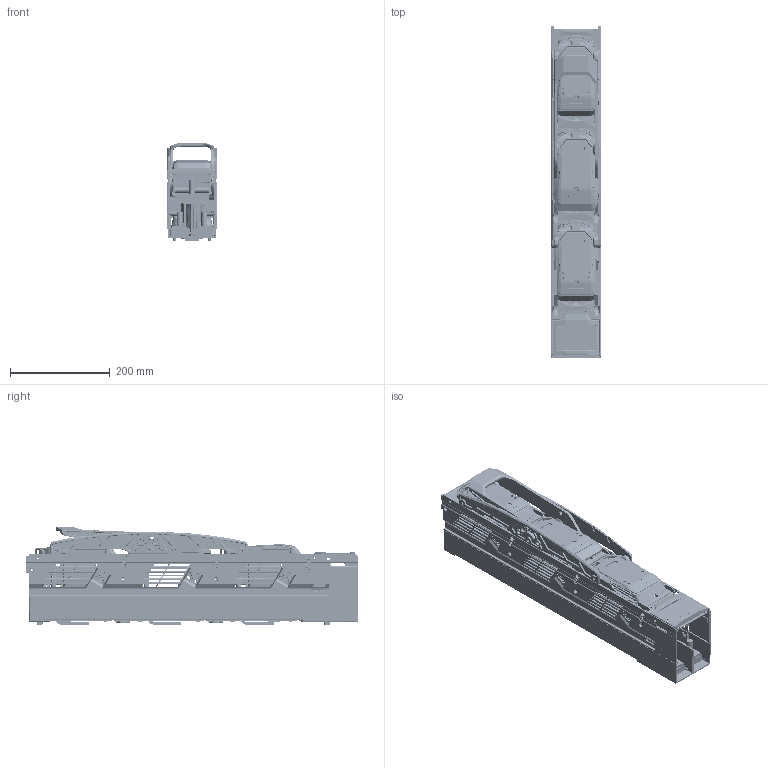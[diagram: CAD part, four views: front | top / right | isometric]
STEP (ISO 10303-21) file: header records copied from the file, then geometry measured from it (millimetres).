
FILE_DESCRIPTION((''),'2;1');
FILE_NAME('2TZD_505_6001_ASM','2024-06-17T14:30:49',('liuhui'),(''),'CREO PARAMETRIC BY PTC INC, 2020354','CREO PARAMETRIC BY PTC INC, 2020354','');
FILE_SCHEMA(('CONFIG_CONTROL_DESIGN'));
Products named in the file (34): 8TZD_022_6283; 8TZD_557_6170; 8TZD_580_6127; 8TZD_557_6171; 8TZD_289_6027; 8TZD_580_6126; 5TZD_558_6658_ASM; 8TZD_580_6128; 8TZD_580_6129; 8TZD_580_6130; 5TZD_558_6659_ASM; 8TZD_271_6029; GB_T9074_4-M5X22; GB_T5783-M12X35; 8TZD_300_6292_2; 8TZD_005_6332_2; 8TZD_005_6333_2; 8TZD_744_6026; 8TZD_742_6503; 5TZD_740_6070_ASM; 8TZD_100_6066; 8TZD_315_6744; 8TZD_271_6025; 8TZD_271_6024; 8TZD_594_6004; 5TZD_558_6656_AF0_ASM; 8TZD_253_6293; 5TZD_558_6655_ASM; 5TZD_558_6656_AF1_ASM; 8TZD_315_6743; 8TZD_050_6095; 8TZD_270_6039; 8TZD_860_6709; 2TZD_505_6001_ASM
Assembly tree (109 placements, depth 3):
  2TZD_505_6001_ASM
    8TZD_022_6283
    5TZD_558_6658_ASM  x3
      8TZD_557_6170
      8TZD_580_6127
      8TZD_557_6171
      8TZD_289_6027
      8TZD_580_6126
    8TZD_580_6128
    8TZD_580_6129
    5TZD_558_6659_ASM
      8TZD_580_6130
      8TZD_557_6170  x2
      8TZD_557_6171  x2
      8TZD_289_6027  x4
    8TZD_557_6170  x4
    8TZD_557_6171  x4
    8TZD_289_6027  x8
    8TZD_271_6029  x3
    GB_T9074_4-M5X22  x24
    GB_T5783-M12X35  x3
    8TZD_300_6292_2  x3
    8TZD_005_6332_2
    8TZD_005_6333_2
    5TZD_740_6070_ASM  x3
      8TZD_744_6026
      8TZD_742_6503
    5TZD_558_6656_AF0_ASM
      8TZD_100_6066
      8TZD_315_6744
      8TZD_271_6025
      8TZD_271_6024  x2
      8TZD_594_6004
    5TZD_558_6655_ASM
      8TZD_253_6293
      8TZD_315_6744
    5TZD_558_6656_AF1_ASM
      8TZD_100_6066
      8TZD_315_6744
      8TZD_271_6025
      8TZD_271_6024  x2
      8TZD_594_6004
    8TZD_315_6743
    8TZD_050_6095  x2
    8TZD_270_6039  x3
    8TZD_860_6709
Bounding box: 99 x 664.11 x 197.83 mm (x, y, z)
Volume: 3070836.9 mm3; surface area: 1962388 mm2
Topology: 153 solids, 233 shells, 33514 faces, 88013 edges, 54928 vertices
Faces by surface type: plane 17321, cylinder 9330, bspline 2769, torus 1567, cone 1136, sphere 813, extrusion 574, revolution 4
Entity records: 720440 total; most frequent: CARTESIAN_POINT 248802, ORIENTED_EDGE 104398, DIRECTION 88087, EDGE_CURVE 52199, VECTOR 33321, VERTEX_POINT 32894, LINE 32813, AXIS2_PLACEMENT_3D 27382
